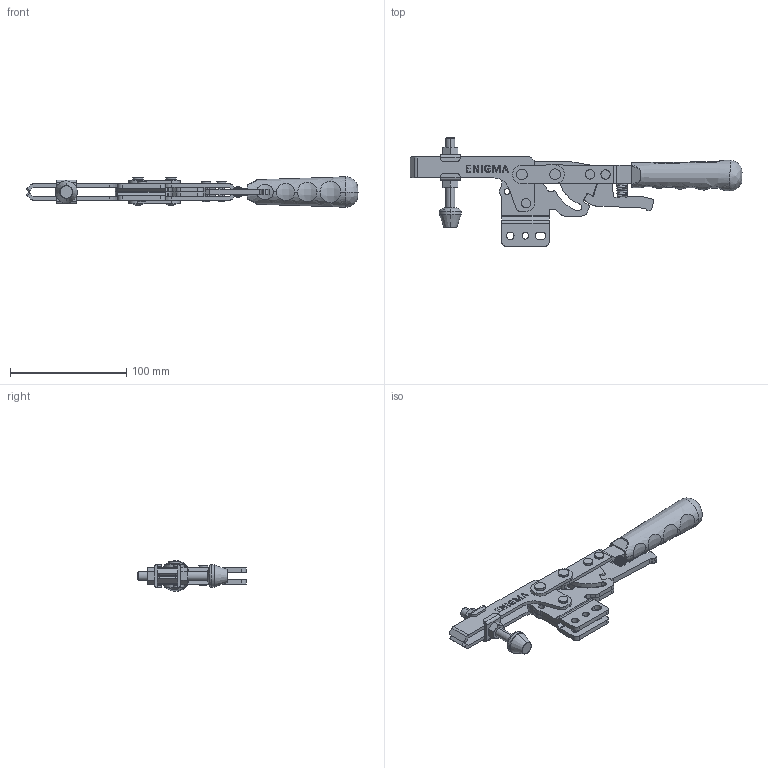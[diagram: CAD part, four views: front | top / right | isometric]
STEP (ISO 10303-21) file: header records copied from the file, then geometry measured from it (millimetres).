
FILE_DESCRIPTION (( 'STEP AP203' ), '1' );
FILE_NAME ('1244_D.STEP', '2022-11-26T18:21:39', ( '' ), ( '' ), 'SwSTEP 2.0', 'SolidWorks 2023', '' );
FILE_SCHEMA (( 'CONFIG_CONTROL_DESIGN' ));
Length unit declared in the file: millimetre
Products named in the file (16): Pim_5x18_Varsay_X2_0131_X0_lan; M8 Bask_X2_0131_X0__Varsay_X2_0131_X0_lan; 2225_K_Mandal3; C95_Yeni_Tutamak_Varsay_X2_0131_X0_lan; Aynalama2225_Bask_X2_0131_X0_Kolu; 2225_UD_Govde; 2225_KozaMafsal; Pim_6x24_5_Varsay_X2_0131_X0_lan; M8 Somun; M8 Ask_X2_0131_X0__Varsay_X2_0131_X0_lan; 1244_D; M8_Bask_X2_0131_X0__Grubu^1244_D; 2225_HareketKolu; Aynalama2225_UD_Govde; 2225_Bask_X2_0131_X0_Kolu; cap5x15_CekmeYay_X2_0131_X0_
Assembly tree (22 placements, depth 3):
  1244_D
    2225_UD_Govde
    2225_Bask_X2_0131_X0_Kolu
    2225_KozaMafsal  x2
    2225_HareketKolu  x2
    Aynalama2225_Bask_X2_0131_X0_Kolu
    Pim_5x18_Varsay_X2_0131_X0_lan  x3
    Pim_6x24_5_Varsay_X2_0131_X0_lan  x2
    2225_K_Mandal3
    cap5x15_CekmeYay_X2_0131_X0_
    Aynalama2225_UD_Govde
    C95_Yeni_Tutamak_Varsay_X2_0131_X0_lan
    M8_Bask_X2_0131_X0__Grubu^1244_D
      M8 Ask_X2_0131_X0__Varsay_X2_0131_X0_lan  x2
      M8 Bask_X2_0131_X0__Varsay_X2_0131_X0_lan
      M8 Somun  x2
Bounding box: 285.41 x 93.34 x 26.35 mm (x, y, z)
Volume: 112307.2 mm3; surface area: 71141.6 mm2
Topology: 21 solids, 21 shells, 1042 faces, 2790 edges, 1825 vertices
Faces by surface type: plane 537, cylinder 320, bspline 155, cone 30
Entity records: 35051 total; most frequent: CARTESIAN_POINT 13748, ORIENTED_EDGE 4280, DIRECTION 3683, EDGE_CURVE 2140, VERTEX_POINT 1409, VECTOR 1309, LINE 1309, AXIS2_PLACEMENT_3D 1187
